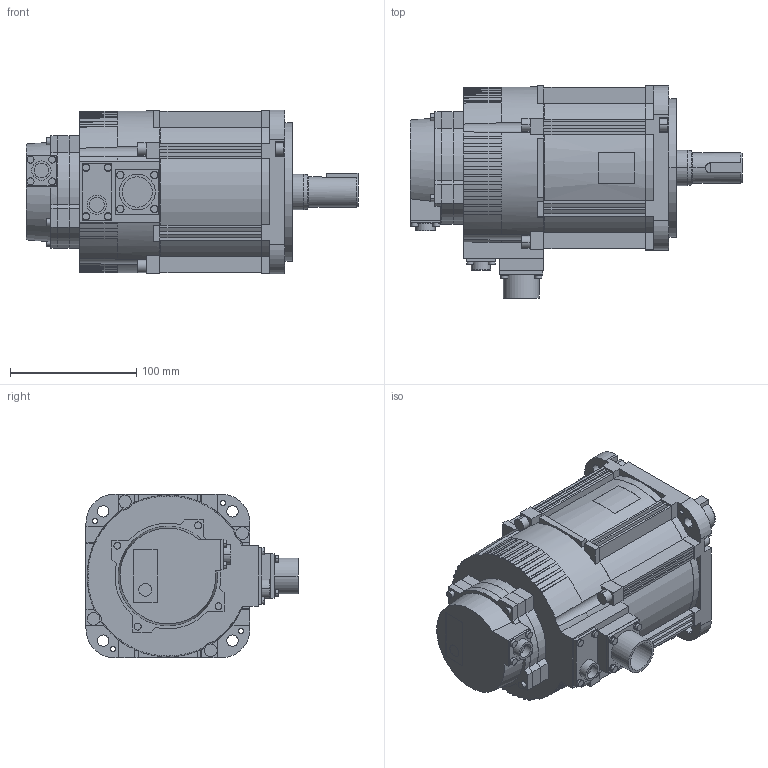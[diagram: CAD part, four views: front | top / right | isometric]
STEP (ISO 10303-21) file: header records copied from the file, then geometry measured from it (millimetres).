
FILE_DESCRIPTION( (''), '2;1');
FILE_NAME ('SGMXG-20AUA6CC2.stp','2022-03-02T11:32:29',(''),(''),'spGate 15.6.6','','');
FILE_SCHEMA (('AUTOMOTIVE_DESIGN'));
Length unit declared in the file: millimetre
Products named in the file (3): Assembly; SGMXG-20AUA6CC2-prt0; SGMXG-20AUA6CC2-prt1
Assembly tree (2 placements, depth 2):
  Assembly
    SGMXG-20AUA6CC2-prt0
    SGMXG-20AUA6CC2-prt1
Bounding box: 263.2 x 168.2 x 130 mm (x, y, z)
Volume: 2518218.8 mm3; surface area: 169112.1 mm2
Topology: 2 solids, 2 shells, 686 faces, 1850 edges, 1226 vertices
Faces by surface type: plane 438, cylinder 202, bspline 46
Entity records: 36415 total; most frequent: CARTESIAN_POINT 4504, ORIENTED_EDGE 3700, DIRECTION 3519, COLOUR_RGB 2538, PRESENTATION_STYLE_ASSIGNMENT 2538, STYLED_ITEM 2538, EDGE_CURVE 1850, DRAUGHTING_PRE_DEFINED_CURVE_FONT 1850
